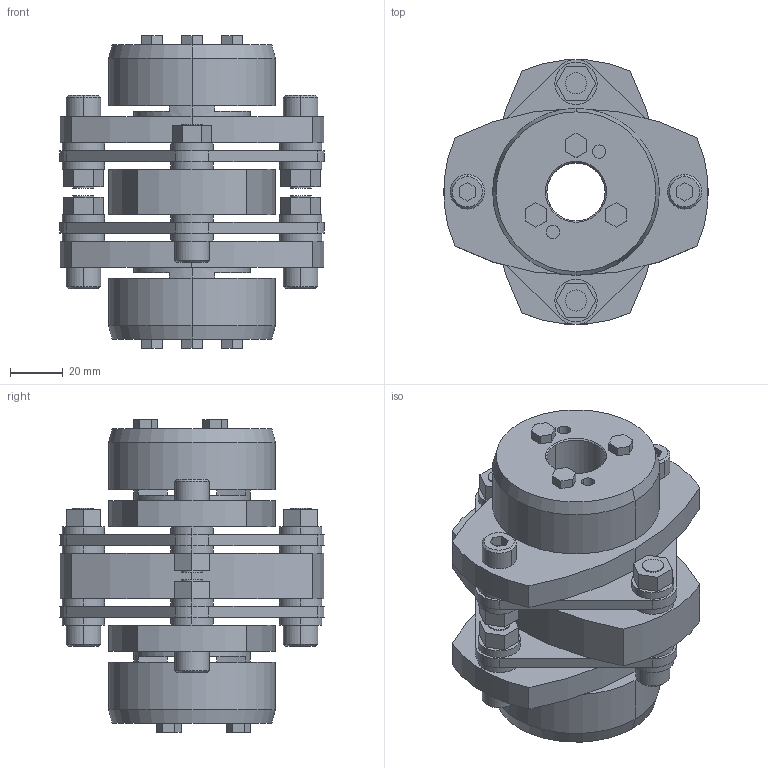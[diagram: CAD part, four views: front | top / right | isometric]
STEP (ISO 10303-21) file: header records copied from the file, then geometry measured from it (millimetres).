
FILE_DESCRIPTION((''),'2;1');
FILE_NAME('LCD-100T7-22×22.stp','2011-09-09T08:33:39',(''),(''),'AutoCAD STEP 2000i','AutoCAD 2000i',', , ');
FILE_SCHEMA(('CONFIG_CONTROL_DESIGN'));
Length unit declared in the file: millimetre
Products named in the file (5): LCD-100T7-22×22; 忣兜1; LC100T7-T022-1; LC100T7-T022; LCD100-ITA
Assembly tree (4 placements, depth 2):
  LCD-100T7-22×22
    忣兜1
    LC100T7-T022-1
    LC100T7-T022
    LCD100-ITA
Bounding box: 100 x 99.93 x 118 mm (x, y, z)
Volume: 354640.5 mm3; surface area: 89327.1 mm2
Topology: 1 solids, 1 shells, 320 faces, 780 edges, 512 vertices
Faces by surface type: plane 176, cylinder 120, cone 24
Entity records: 9635 total; most frequent: DIRECTION 1710, CARTESIAN_POINT 1617, ORIENTED_EDGE 1560, EDGE_CURVE 780, AXIS2_PLACEMENT_3D 605, VERTEX_POINT 512, VECTOR 500, LINE 500
